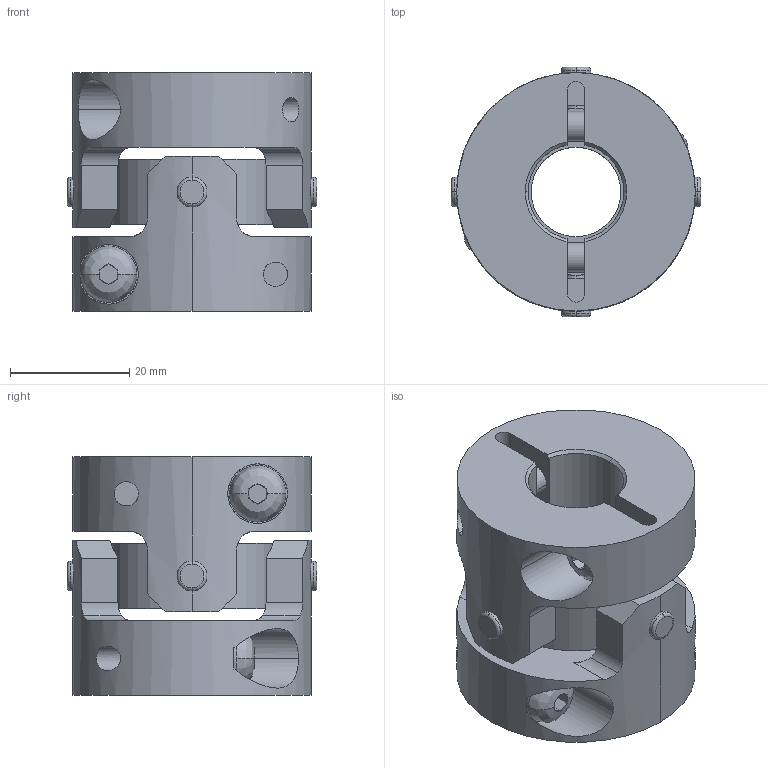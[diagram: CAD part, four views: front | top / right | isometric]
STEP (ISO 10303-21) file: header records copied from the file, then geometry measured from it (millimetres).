
FILE_DESCRIPTION((''),'2;1');
FILE_NAME('UA-40C-16×20.stp','2013-05-22T08:59:07',(''),(''),'AutoCAD STEP 2000i','AutoCAD 2000i',', , ');
FILE_SCHEMA(('CONFIG_CONTROL_DESIGN'));
Length unit declared in the file: millimetre
Products named in the file (7): UA-40C-8×18; 忣兜1; UA-4002-D18; BTN-M5; UA-4002-D08-1; UA-4002-D08; UA40-SEN
Assembly tree (8 placements, depth 3):
  UA-40C-8×18
    忣兜1
    UA-4002-D18
      BTN-M5
    UA-4002-D08-1
      BTN-M5
    UA-4002-D08
      BTN-M5
    UA40-SEN
Bounding box: 41.81 x 41.81 x 40 mm (x, y, z)
Volume: 31200.6 mm3; surface area: 14985.5 mm2
Topology: 1 solids, 1 shells, 252 faces, 654 edges, 412 vertices
Faces by surface type: plane 124, cylinder 96, cone 16, bspline 8, torus 8
Entity records: 9705 total; most frequent: CARTESIAN_POINT 3363, DIRECTION 1308, ORIENTED_EDGE 1308, EDGE_CURVE 654, AXIS2_PLACEMENT_3D 505, VERTEX_POINT 412, VECTOR 298, LINE 298
